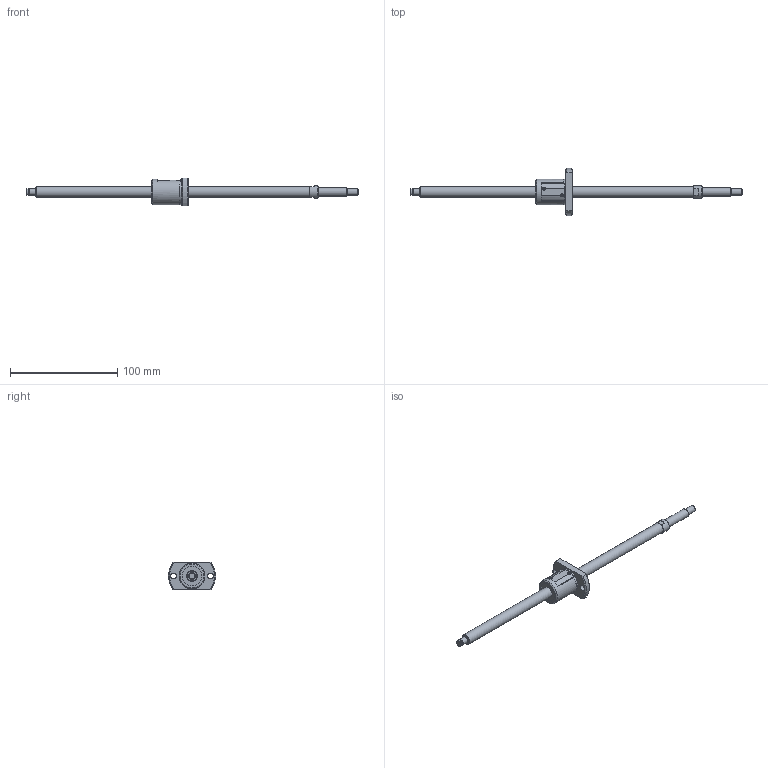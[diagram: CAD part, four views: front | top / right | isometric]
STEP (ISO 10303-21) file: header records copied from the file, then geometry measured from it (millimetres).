
FILE_DESCRIPTION(/* description */ ('STEP AP214'),/* implementation_level */ '2;1');
FILE_NAME(/* name */ 'SG1005-251R310C5B0X(108.5)',/* time_stamp */ '2026-07-24T15:16:30+02:00',/* author */ ('License CC BY-ND 4.0'),/* organization */ ('CADENAS'),/* preprocessor_version */ 'ST-DEVELOPER v20',/* originating_system */ 'PARTsolutions',/* authorisation */ ' ');
FILE_SCHEMA (('AUTOMOTIVE_DESIGN {1 0 10303 214 3 1 1}'));
Length unit declared in the file: millimetre
Products named in the file (3): SG1005-251R310C5B0X(108.5); SG1005-251R310C5B_shaft; SG1005 C5_nut
Assembly tree (2 placements, depth 2):
  SG1005-251R310C5B0X(108.5)
    SG1005-251R310C5B_shaft
    SG1005 C5_nut
Bounding box: 310 x 44 x 26 mm (x, y, z)
Volume: 38162.1 mm3; surface area: 15579.8 mm2
Topology: 2 solids, 2 shells, 79 faces, 188 edges, 123 vertices
Faces by surface type: plane 38, cylinder 26, cone 14, torus 1
Full cylindrical faces by diameter (mm): 5.5 x2, 5.7 x1, 6 x3, 8 x1, 10 x2, 11.5 x1, 18 x2, 23.5 x1, 24 x1
Entity records: 2197 total; most frequent: CARTESIAN_POINT 408, DIRECTION 374, ORIENTED_EDGE 306, AXIS2_PLACEMENT_3D 157, EDGE_CURVE 153, EDGE_LOOP 120, FACE_BOUND 120, VERTEX_POINT 113
